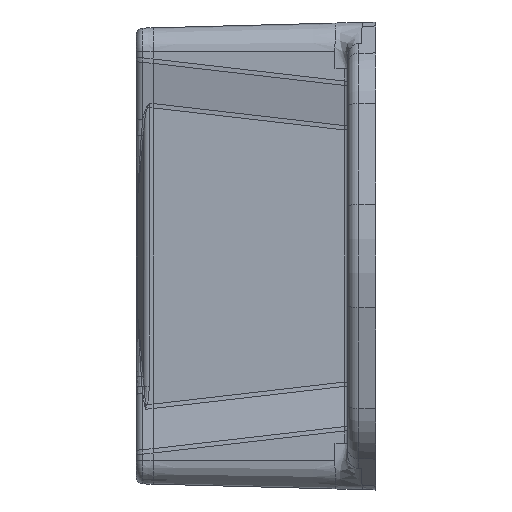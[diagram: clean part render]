
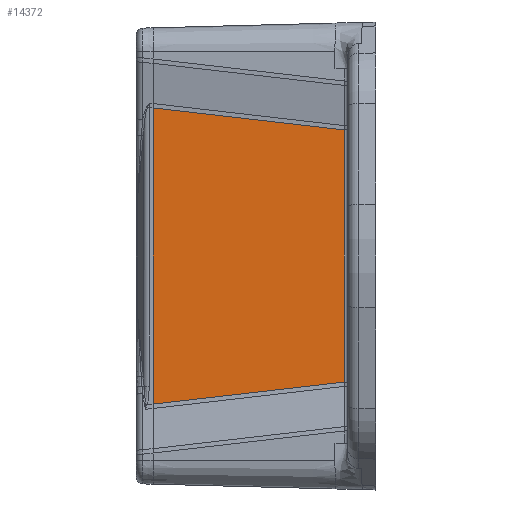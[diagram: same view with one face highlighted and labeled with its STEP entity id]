
A CAD part, left-side view. The second image highlights one B-rep face of the part: STEP entity #14372.
In plain terms, the highlighted planar face has unit normal (-1, 0.026, 0).
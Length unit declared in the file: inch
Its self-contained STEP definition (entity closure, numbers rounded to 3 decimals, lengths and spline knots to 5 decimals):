
#9249 = VECTOR ( 'NONE', #10354, 39.37008 ) ;
#9264 = LINE ( 'NONE', #10328, #9265 ) ;
#9265 = VECTOR ( 'NONE', #10329, 39.37008 ) ;
#9269 = LINE ( 'NONE', #10353, #9249 ) ;
#9275 = LINE ( 'NONE', #10355, #9276 ) ;
#9276 = VECTOR ( 'NONE', #10356, 39.37008 ) ;
#9277 = LINE ( 'NONE', #10357, #9278 ) ;
#9278 = VECTOR ( 'NONE', #10358, 39.37008 ) ;
#10328 = CARTESIAN_POINT ( 'NONE',  ( -1.52697, 0.00112, 0.6653 ) ) ;
#10329 = DIRECTION ( 'NONE',  ( 0.026, 0.993, 0.114 ) ) ;
#10353 = CARTESIAN_POINT ( 'NONE',  ( -1.54951, -0.85978, -0.675 ) ) ;
#10354 = DIRECTION ( 'NONE',  ( 0., 0., 1. ) ) ;
#10355 = CARTESIAN_POINT ( 'NONE',  ( -1.54988, -0.87388, -0.56448 ) ) ;
#10356 = DIRECTION ( 'NONE',  ( -0.026, -0.993, 0.114 ) ) ;
#10357 = CARTESIAN_POINT ( 'NONE',  ( -1.527, 0., -0.675 ) ) ;
#10358 = DIRECTION ( 'NONE',  ( 0., 0., 1. ) ) ;
#13330 = VERTEX_POINT ( 'NONE', #21454 ) ;
#13331 = VERTEX_POINT ( 'NONE', #21455 ) ;
#13332 = VERTEX_POINT ( 'NONE', #21456 ) ;
#13333 = VERTEX_POINT ( 'NONE', #21457 ) ;
#14372 = ADVANCED_FACE ( 'NONE', ( #24486 ), #23231, .T. ) ;
#16933 = EDGE_CURVE ( 'NONE', #13332, #13333, #9264, .T. ) ;
#16941 = EDGE_CURVE ( 'NONE', #13331, #13332, #9269, .T. ) ;
#16942 = EDGE_CURVE ( 'NONE', #13330, #13331, #9275, .T. ) ;
#16943 = EDGE_CURVE ( 'NONE', #13330, #13333, #9277, .T. ) ;
#17799 = ORIENTED_EDGE ( 'NONE', *, *, #16942, .T. ) ;
#17800 = ORIENTED_EDGE ( 'NONE', *, *, #16941, .T. ) ;
#17801 = ORIENTED_EDGE ( 'NONE', *, *, #16933, .T. ) ;
#17802 = ORIENTED_EDGE ( 'NONE', *, *, #16943, .F. ) ;
#17834 = EDGE_LOOP ( 'NONE', ( #17799, #17800, #17801, #17802 ) ) ;
#21454 = CARTESIAN_POINT ( 'NONE',  ( -1.527, 0., -0.66517 ) ) ;
#21455 = CARTESIAN_POINT ( 'NONE',  ( -1.54951, -0.85978, -0.5661 ) ) ;
#21456 = CARTESIAN_POINT ( 'NONE',  ( -1.54951, -0.85978, 0.5661 ) ) ;
#21457 = CARTESIAN_POINT ( 'NONE',  ( -1.527, 0., 0.66517 ) ) ;
#23231 = PLANE ( 'NONE',  #24029 ) ;
#23234 = CARTESIAN_POINT ( 'NONE',  ( -1.527, 0., -0.675 ) ) ;
#23240 = DIRECTION ( 'NONE',  ( -1., 0.026, 0. ) ) ;
#23241 = DIRECTION ( 'NONE',  ( -0.026, -1., 0. ) ) ;
#24029 = AXIS2_PLACEMENT_3D ( 'NONE', #23234, #23240, #23241 ) ;
#24486 = FACE_OUTER_BOUND ( 'NONE', #17834, .T. ) ;
